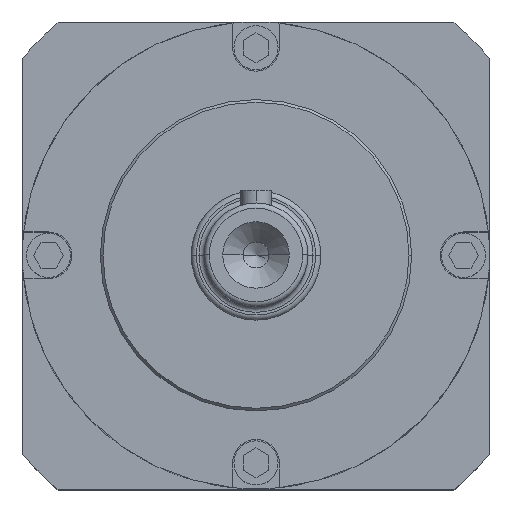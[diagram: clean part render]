
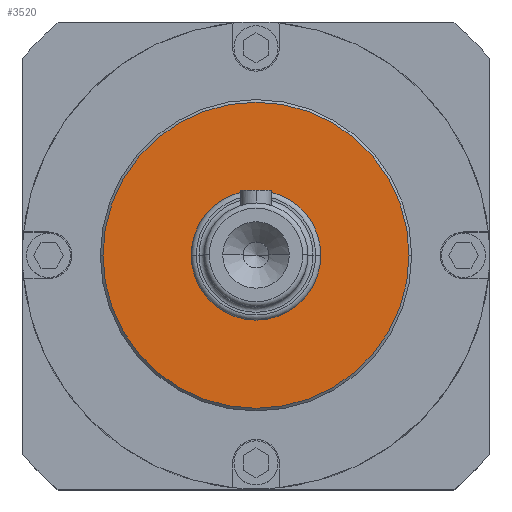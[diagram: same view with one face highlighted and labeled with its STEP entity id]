
A CAD part, top view. The second image highlights one B-rep face of the part: STEP entity #3520.
In plain terms, the highlighted planar face has unit normal (0, 0, 1).
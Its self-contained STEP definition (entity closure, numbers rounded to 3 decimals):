
#87 = VERTEX_POINT ( 'NONE', #1876 ) ;
#233 = VERTEX_POINT ( 'NONE', #1293 ) ;
#307 = CARTESIAN_POINT ( 'NONE',  ( 0., 0., 25. ) ) ;
#323 = EDGE_CURVE ( 'NONE', #87, #233, #2562, .T. ) ;
#563 = AXIS2_PLACEMENT_3D ( 'NONE', #605, #2199, #1867 ) ;
#575 = DIRECTION ( 'NONE',  ( 0., 0., 1. ) ) ;
#605 = CARTESIAN_POINT ( 'NONE',  ( 0., 0., 25. ) ) ;
#650 = EDGE_CURVE ( 'NONE', #2888, #2315, #4168, .T. ) ;
#683 = ORIENTED_EDGE ( 'NONE', *, *, #323, .F. ) ;
#694 = CARTESIAN_POINT ( 'NONE',  ( 0., 0., 25. ) ) ;
#1060 = FACE_BOUND ( 'NONE', #1494, .T. ) ;
#1098 = DIRECTION ( 'NONE',  ( 0., 0., 1. ) ) ;
#1293 = CARTESIAN_POINT ( 'NONE',  ( -12.5, 0., 25. ) ) ;
#1422 = DIRECTION ( 'NONE',  ( 1., 0., 0. ) ) ;
#1480 = ORIENTED_EDGE ( 'NONE', *, *, #650, .T. ) ;
#1494 = EDGE_LOOP ( 'NONE', ( #683, #3392 ) ) ;
#1569 = FACE_OUTER_BOUND ( 'NONE', #3030, .T. ) ;
#1639 = DIRECTION ( 'NONE',  ( 1., 0., 0. ) ) ;
#1763 = CARTESIAN_POINT ( 'NONE',  ( 0., 0., 25. ) ) ;
#1867 = DIRECTION ( 'NONE',  ( 1., 0., 0. ) ) ;
#1876 = CARTESIAN_POINT ( 'NONE',  ( 12.5, 0., 25. ) ) ;
#2155 = DIRECTION ( 'NONE',  ( 1., 0., 0. ) ) ;
#2199 = DIRECTION ( 'NONE',  ( 0., 0., 1. ) ) ;
#2315 = VERTEX_POINT ( 'NONE', #3599 ) ;
#2447 = CARTESIAN_POINT ( 'NONE',  ( 29.5, 0., 25. ) ) ;
#2562 = CIRCLE ( 'NONE', #3480, 12.5 ) ;
#2726 = AXIS2_PLACEMENT_3D ( 'NONE', #307, #575, #3179 ) ;
#2795 = AXIS2_PLACEMENT_3D ( 'NONE', #1763, #3684, #1422 ) ;
#2815 = ORIENTED_EDGE ( 'NONE', *, *, #3693, .T. ) ;
#2888 = VERTEX_POINT ( 'NONE', #2447 ) ;
#3030 = EDGE_LOOP ( 'NONE', ( #2815, #1480 ) ) ;
#3114 = CARTESIAN_POINT ( 'NONE',  ( 0., 0., 25. ) ) ;
#3128 = EDGE_CURVE ( 'NONE', #233, #87, #3135, .T. ) ;
#3135 = CIRCLE ( 'NONE', #2726, 12.5 ) ;
#3179 = DIRECTION ( 'NONE',  ( 1., 0., 0. ) ) ;
#3330 = AXIS2_PLACEMENT_3D ( 'NONE', #694, #3943, #1639 ) ;
#3392 = ORIENTED_EDGE ( 'NONE', *, *, #3128, .F. ) ;
#3480 = AXIS2_PLACEMENT_3D ( 'NONE', #3114, #1098, #2155 ) ;
#3520 = ADVANCED_FACE ( 'NONE', ( #1060, #1569 ), #4176, .T. ) ;
#3599 = CARTESIAN_POINT ( 'NONE',  ( -29.5, 0., 25. ) ) ;
#3654 = CIRCLE ( 'NONE', #3330, 29.5 ) ;
#3684 = DIRECTION ( 'NONE',  ( 0., 0., 1. ) ) ;
#3693 = EDGE_CURVE ( 'NONE', #2315, #2888, #3654, .T. ) ;
#3943 = DIRECTION ( 'NONE',  ( 0., 0., 1. ) ) ;
#4168 = CIRCLE ( 'NONE', #2795, 29.5 ) ;
#4176 = PLANE ( 'NONE',  #563 ) ;
